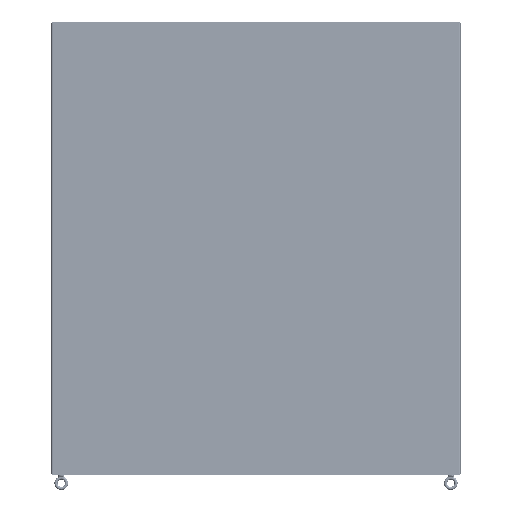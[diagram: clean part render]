
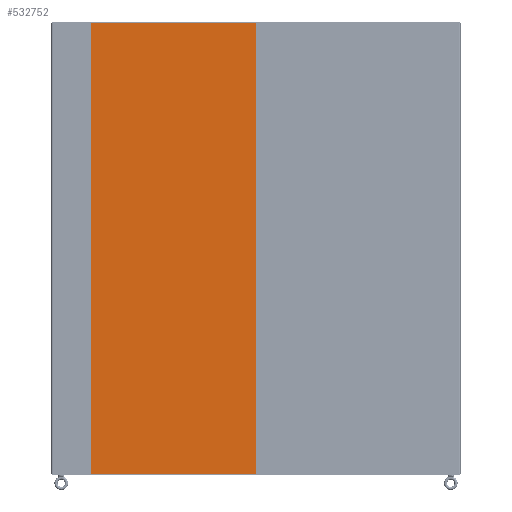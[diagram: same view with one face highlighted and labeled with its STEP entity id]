
A CAD part, left-side view. The second image highlights one B-rep face of the part: STEP entity #532752.
In plain terms, the highlighted planar face has unit normal (-1, 0, 0) as drawn and (0, 0, -1) by its records, which use the part's own axes.
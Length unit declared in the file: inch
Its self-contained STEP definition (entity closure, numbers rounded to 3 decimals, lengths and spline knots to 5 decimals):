
#532314=CARTESIAN_POINT('',(-15.6475,42.856,-0.104));
#532315=DIRECTION('',(0.,0.,-1.));
#532316=DIRECTION('',(-1.,0.,0.));
#532317=AXIS2_PLACEMENT_3D('',#532314,#532315,#532316);
#532322=DIRECTION('',(0.,-1.,0.));
#532323=VECTOR('',#532322,85.712);
#532324=CARTESIAN_POINT('',(-15.6875,42.856,-0.104));
#532325=LINE('',#532324,#532323);
#532329=CARTESIAN_POINT('',(-15.6475,-42.856,-0.104));
#532330=DIRECTION('',(0.,0.,-1.));
#532331=DIRECTION('',(0.,-1.,0.));
#532332=AXIS2_PLACEMENT_3D('',#532329,#532330,#532331);
#532337=DIRECTION('',(1.,0.,0.));
#532338=VECTOR('',#532337,31.295);
#532339=CARTESIAN_POINT('',(-15.6475,-42.896,-0.104));
#532340=LINE('',#532339,#532338);
#532344=CARTESIAN_POINT('',(15.6475,-42.856,-0.104));
#532345=DIRECTION('',(0.,0.,-1.));
#532346=DIRECTION('',(1.,0.,0.));
#532347=AXIS2_PLACEMENT_3D('',#532344,#532345,#532346);
#532352=DIRECTION('',(0.,1.,0.));
#532353=VECTOR('',#532352,85.712);
#532354=CARTESIAN_POINT('',(15.6875,-42.856,-0.104));
#532355=LINE('',#532354,#532353);
#532359=CARTESIAN_POINT('',(15.6475,42.856,-0.104));
#532360=DIRECTION('',(0.,0.,-1.));
#532361=DIRECTION('',(0.,1.,0.));
#532362=AXIS2_PLACEMENT_3D('',#532359,#532360,#532361);
#532367=DIRECTION('',(-1.,0.,0.));
#532368=VECTOR('',#532367,31.295);
#532369=CARTESIAN_POINT('',(15.6475,42.896,-0.104));
#532370=LINE('',#532369,#532368);
#532468=CARTESIAN_POINT('',(-15.6875,42.856,-0.104));
#532469=VERTEX_POINT('',#532468);
#532470=CARTESIAN_POINT('',(-15.6475,42.896,-0.104));
#532471=VERTEX_POINT('',#532470);
#532476=CARTESIAN_POINT('',(-15.6475,-42.896,-0.104));
#532477=VERTEX_POINT('',#532476);
#532478=CARTESIAN_POINT('',(-15.6875,-42.856,-0.104));
#532479=VERTEX_POINT('',#532478);
#532484=CARTESIAN_POINT('',(15.6475,42.896,-0.104));
#532485=VERTEX_POINT('',#532484);
#532486=CARTESIAN_POINT('',(15.6475,-42.896,-0.104));
#532487=VERTEX_POINT('',#532486);
#532490=CARTESIAN_POINT('',(15.6875,42.856,-0.104));
#532491=VERTEX_POINT('',#532490);
#532494=CARTESIAN_POINT('',(15.6875,-42.856,-0.104));
#532495=VERTEX_POINT('',#532494);
#532737=CARTESIAN_POINT('',(0.,0.,-0.104));
#532738=DIRECTION('',(0.,0.,1.));
#532739=DIRECTION('',(1.,0.,0.));
#532740=AXIS2_PLACEMENT_3D('',#532737,#532738,#532739);
#532741=PLANE('',#532740);
#532742=ORIENTED_EDGE('',*,*,#532577,.F.);
#532743=ORIENTED_EDGE('',*,*,#532600,.T.);
#532744=ORIENTED_EDGE('',*,*,#532620,.F.);
#532745=ORIENTED_EDGE('',*,*,#532642,.T.);
#532746=ORIENTED_EDGE('',*,*,#532662,.F.);
#532747=ORIENTED_EDGE('',*,*,#532682,.T.);
#532748=ORIENTED_EDGE('',*,*,#532704,.F.);
#532749=ORIENTED_EDGE('',*,*,#532723,.T.);
#532750=EDGE_LOOP('',(#532742,#532743,#532744,#532745,#532746,#532747,#532748,
#532749));
#532751=FACE_OUTER_BOUND('',#532750,.F.);
#532318=CIRCLE('',#532317,0.04);
#532333=CIRCLE('',#532332,0.04);
#532348=CIRCLE('',#532347,0.04);
#532363=CIRCLE('',#532362,0.04);
#532577=EDGE_CURVE('',#532469,#532471,#532318,.T.);
#532600=EDGE_CURVE('',#532469,#532479,#532325,.T.);
#532620=EDGE_CURVE('',#532477,#532479,#532333,.T.);
#532642=EDGE_CURVE('',#532477,#532487,#532340,.T.);
#532662=EDGE_CURVE('',#532495,#532487,#532348,.T.);
#532682=EDGE_CURVE('',#532495,#532491,#532355,.T.);
#532704=EDGE_CURVE('',#532485,#532491,#532363,.T.);
#532723=EDGE_CURVE('',#532485,#532471,#532370,.T.);
#532752=ADVANCED_FACE('',(#532751),#532741,.F.);
